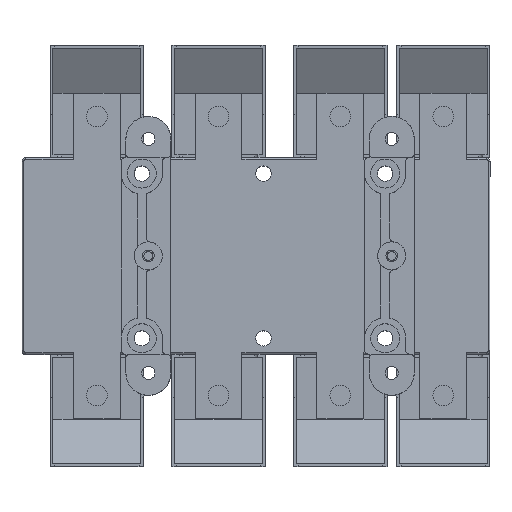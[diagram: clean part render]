
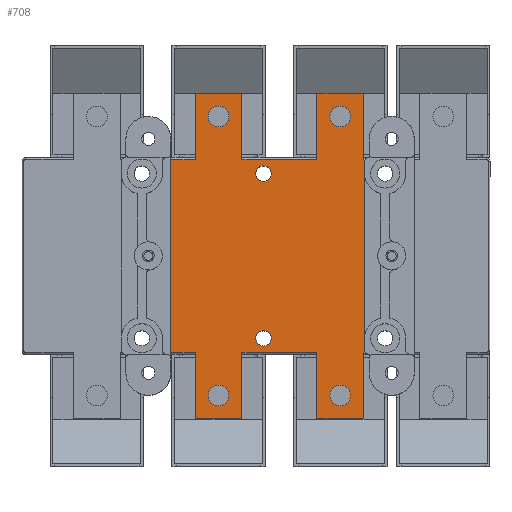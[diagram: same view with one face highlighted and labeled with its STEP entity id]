
A CAD part, top view. The second image highlights one B-rep face of the part: STEP entity #708.
In plain terms, the highlighted planar face has unit normal (0, 0, 1).
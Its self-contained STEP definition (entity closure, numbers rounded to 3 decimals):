
#172=FACE_BOUND('',#1899,.T.);
#173=FACE_BOUND('',#1900,.T.);
#174=FACE_BOUND('',#1901,.T.);
#175=FACE_BOUND('',#1902,.T.);
#176=FACE_BOUND('',#1903,.T.);
#177=FACE_BOUND('',#1904,.T.);
#178=FACE_BOUND('',#1905,.T.);
#708=ADVANCED_FACE('',(#172,#173,#174,#175,#176,#177,#178),#1034,.F.);
#1034=PLANE('',#9313);
#1899=EDGE_LOOP('',(#6134));
#1900=EDGE_LOOP('',(#6135));
#1901=EDGE_LOOP('',(#6136,#6137,#6138,#6139,#6140,#6141,#6142,#6143,#6144,
#6145,#6146,#6147,#6148,#6149,#6150,#6151,#6152,#6153,#6154,#6155,#6156,
#6157));
#1902=EDGE_LOOP('',(#6158));
#1903=EDGE_LOOP('',(#6159));
#1904=EDGE_LOOP('',(#6160));
#1905=EDGE_LOOP('',(#6161));
#2641=LINE('',#13348,#3613);
#2696=LINE('',#13538,#3668);
#2700=LINE('',#13548,#3672);
#2703=LINE('',#13556,#3675);
#2711=LINE('',#13575,#3683);
#2713=LINE('',#13581,#3685);
#2715=LINE('',#13585,#3687);
#2740=LINE('',#13646,#3712);
#2744=LINE('',#13654,#3716);
#2746=LINE('',#13663,#3718);
#2754=LINE('',#13681,#3726);
#2758=LINE('',#13689,#3730);
#2759=LINE('',#13693,#3731);
#2839=LINE('',#14106,#3811);
#2862=LINE('',#14159,#3834);
#2867=LINE('',#14165,#3839);
#2871=LINE('',#14170,#3843);
#2872=LINE('',#14172,#3844);
#2886=LINE('',#14191,#3858);
#2887=LINE('',#14193,#3859);
#3613=VECTOR('',#10793,1.);
#3668=VECTOR('',#10990,1.);
#3672=VECTOR('',#10998,1.);
#3675=VECTOR('',#11005,1.);
#3683=VECTOR('',#11021,1.);
#3685=VECTOR('',#11027,1.);
#3687=VECTOR('',#11031,1.);
#3712=VECTOR('',#11082,1.);
#3716=VECTOR('',#11088,1.);
#3718=VECTOR('',#11096,1.);
#3726=VECTOR('',#11112,1.);
#3730=VECTOR('',#11118,1.);
#3731=VECTOR('',#11123,1.);
#3811=VECTOR('',#11487,1.);
#3834=VECTOR('',#11550,1.);
#3839=VECTOR('',#11557,1.);
#3843=VECTOR('',#11563,1.);
#3844=VECTOR('',#11566,1.);
#3858=VECTOR('',#11590,1.);
#3859=VECTOR('',#11593,1.);
#6134=ORIENTED_EDGE('',*,*,#8380,.F.);
#6135=ORIENTED_EDGE('',*,*,#8381,.F.);
#6136=ORIENTED_EDGE('',*,*,#7984,.F.);
#6137=ORIENTED_EDGE('',*,*,#8367,.T.);
#6138=ORIENTED_EDGE('',*,*,#8080,.F.);
#6139=ORIENTED_EDGE('',*,*,#8071,.F.);
#6140=ORIENTED_EDGE('',*,*,#8076,.F.);
#6141=ORIENTED_EDGE('',*,*,#8351,.T.);
#6142=ORIENTED_EDGE('',*,*,#8127,.T.);
#6143=ORIENTED_EDGE('',*,*,#8123,.T.);
#6144=ORIENTED_EDGE('',*,*,#8131,.T.);
#6145=ORIENTED_EDGE('',*,*,#8352,.T.);
#6146=ORIENTED_EDGE('',*,*,#8261,.T.);
#6147=ORIENTED_EDGE('',*,*,#8312,.T.);
#6148=ORIENTED_EDGE('',*,*,#8257,.T.);
#6149=ORIENTED_EDGE('',*,*,#8347,.T.);
#6150=ORIENTED_EDGE('',*,*,#8144,.T.);
#6151=ORIENTED_EDGE('',*,*,#8146,.T.);
#6152=ORIENTED_EDGE('',*,*,#8140,.T.);
#6153=ORIENTED_EDGE('',*,*,#8342,.T.);
#6154=ORIENTED_EDGE('',*,*,#8089,.F.);
#6155=ORIENTED_EDGE('',*,*,#8094,.F.);
#6156=ORIENTED_EDGE('',*,*,#8092,.F.);
#6157=ORIENTED_EDGE('',*,*,#8366,.T.);
#6158=ORIENTED_EDGE('',*,*,#8041,.T.);
#6159=ORIENTED_EDGE('',*,*,#8039,.T.);
#6160=ORIENTED_EDGE('',*,*,#8033,.T.);
#6161=ORIENTED_EDGE('',*,*,#8031,.T.);
#6905=VERTEX_POINT('',#13336);
#6908=VERTEX_POINT('',#13349);
#6937=VERTEX_POINT('',#13450);
#6939=VERTEX_POINT('',#13455);
#6945=VERTEX_POINT('',#13470);
#6947=VERTEX_POINT('',#13475);
#6971=VERTEX_POINT('',#13537);
#6972=VERTEX_POINT('',#13539);
#6975=VERTEX_POINT('',#13547);
#6976=VERTEX_POINT('',#13551);
#6983=VERTEX_POINT('',#13570);
#6985=VERTEX_POINT('',#13574);
#6987=VERTEX_POINT('',#13580);
#6988=VERTEX_POINT('',#13582);
#7011=VERTEX_POINT('',#13645);
#7012=VERTEX_POINT('',#13647);
#7015=VERTEX_POINT('',#13655);
#7018=VERTEX_POINT('',#13662);
#7024=VERTEX_POINT('',#13680);
#7025=VERTEX_POINT('',#13682);
#7027=VERTEX_POINT('',#13688);
#7028=VERTEX_POINT('',#13690);
#7107=VERTEX_POINT('',#13984);
#7108=VERTEX_POINT('',#13986);
#7111=VERTEX_POINT('',#13993);
#7112=VERTEX_POINT('',#13995);
#7160=VERTEX_POINT('',#14220);
#7161=VERTEX_POINT('',#14222);
#7984=EDGE_CURVE('',#6905,#6908,#2641,.T.);
#8031=EDGE_CURVE('',#6937,#6937,#8519,.T.);
#8033=EDGE_CURVE('',#6939,#6939,#8521,.T.);
#8039=EDGE_CURVE('',#6945,#6945,#8527,.T.);
#8041=EDGE_CURVE('',#6947,#6947,#8529,.T.);
#8071=EDGE_CURVE('',#6971,#6972,#2696,.T.);
#8076=EDGE_CURVE('',#6975,#6971,#2700,.T.);
#8080=EDGE_CURVE('',#6972,#6976,#2703,.T.);
#8089=EDGE_CURVE('',#6985,#6983,#2711,.T.);
#8092=EDGE_CURVE('',#6987,#6988,#2713,.T.);
#8094=EDGE_CURVE('',#6988,#6985,#2715,.T.);
#8123=EDGE_CURVE('',#7012,#7011,#2740,.T.);
#8127=EDGE_CURVE('',#7015,#7012,#2744,.T.);
#8131=EDGE_CURVE('',#7011,#7018,#2746,.T.);
#8140=EDGE_CURVE('',#7025,#7024,#2754,.T.);
#8144=EDGE_CURVE('',#7028,#7027,#2758,.T.);
#8146=EDGE_CURVE('',#7027,#7025,#2759,.T.);
#8257=EDGE_CURVE('',#7108,#7107,#8609,.T.);
#8261=EDGE_CURVE('',#7112,#7111,#8611,.T.);
#8312=EDGE_CURVE('',#7111,#7108,#2839,.T.);
#8342=EDGE_CURVE('',#7024,#6983,#2862,.T.);
#8347=EDGE_CURVE('',#7107,#7028,#2867,.T.);
#8351=EDGE_CURVE('',#6975,#7015,#2871,.T.);
#8352=EDGE_CURVE('',#7018,#7112,#2872,.T.);
#8366=EDGE_CURVE('',#6987,#6908,#2886,.T.);
#8367=EDGE_CURVE('',#6905,#6976,#2887,.T.);
#8380=EDGE_CURVE('',#7160,#7160,#8640,.T.);
#8381=EDGE_CURVE('',#7161,#7161,#8641,.T.);
#8519=CIRCLE('',#9062,5.5);
#8521=CIRCLE('',#9065,5.5);
#8527=CIRCLE('',#9074,5.5);
#8529=CIRCLE('',#9077,5.5);
#8609=CIRCLE('',#9232,2.);
#8611=CIRCLE('',#9235,2.);
#8640=CIRCLE('',#9311,4.1);
#8641=CIRCLE('',#9312,4.1);
#9062=AXIS2_PLACEMENT_3D('',#13449,#10906,#10907);
#9065=AXIS2_PLACEMENT_3D('',#13454,#10912,#10913);
#9074=AXIS2_PLACEMENT_3D('',#13469,#10930,#10931);
#9077=AXIS2_PLACEMENT_3D('',#13474,#10936,#10937);
#9232=AXIS2_PLACEMENT_3D('',#13985,#11381,#11382);
#9235=AXIS2_PLACEMENT_3D('',#13994,#11389,#11390);
#9311=AXIS2_PLACEMENT_3D('',#14219,#11630,#11631);
#9312=AXIS2_PLACEMENT_3D('',#14221,#11632,#11633);
#9313=AXIS2_PLACEMENT_3D('',#14223,#11634,#11635);
#10793=DIRECTION('',(0.,1.,0.));
#10906=DIRECTION('',(0.,0.,-1.));
#10907=DIRECTION('',(-1.,0.,0.));
#10912=DIRECTION('',(0.,0.,-1.));
#10913=DIRECTION('',(-1.,0.,0.));
#10930=DIRECTION('',(0.,0.,-1.));
#10931=DIRECTION('',(-1.,0.,0.));
#10936=DIRECTION('',(0.,0.,-1.));
#10937=DIRECTION('',(-1.,0.,0.));
#10990=DIRECTION('',(-1.,0.,0.));
#10998=DIRECTION('',(0.,-1.,0.));
#11005=DIRECTION('',(0.,1.,0.));
#11021=DIRECTION('',(0.,-1.,0.));
#11027=DIRECTION('',(0.,1.,0.));
#11031=DIRECTION('',(1.,0.,0.));
#11082=DIRECTION('',(1.,0.,0.));
#11088=DIRECTION('',(0.,-1.,0.));
#11096=DIRECTION('',(0.,1.,0.));
#11112=DIRECTION('',(0.,-1.,0.));
#11118=DIRECTION('',(0.,1.,0.));
#11123=DIRECTION('',(-1.,0.,0.));
#11381=DIRECTION('',(0.,0.,-1.));
#11382=DIRECTION('',(-1.,0.,0.));
#11389=DIRECTION('',(0.,0.,-1.));
#11390=DIRECTION('',(-1.,0.,0.));
#11487=DIRECTION('',(0.,1.,0.));
#11550=DIRECTION('',(-1.,0.,0.));
#11557=DIRECTION('',(-1.,0.,0.));
#11563=DIRECTION('',(1.,0.,0.));
#11566=DIRECTION('',(1.,0.,0.));
#11590=DIRECTION('',(-1.,0.,0.));
#11593=DIRECTION('',(1.,0.,0.));
#11630=DIRECTION('',(0.,0.,1.));
#11631=DIRECTION('',(-1.,0.,0.));
#11632=DIRECTION('',(0.,0.,1.));
#11633=DIRECTION('',(-1.,0.,0.));
#11634=DIRECTION('',(0.,0.,-1.));
#11635=DIRECTION('',(-1.,0.,0.));
#13336=CARTESIAN_POINT('',(-118.,-51.5,0.));
#13348=CARTESIAN_POINT('',(-118.,62.5,0.));
#13349=CARTESIAN_POINT('',(-118.,51.5,0.));
#13449=CARTESIAN_POINT('',(-27.5,74.5,0.));
#13450=CARTESIAN_POINT('',(-33.,74.5,0.));
#13454=CARTESIAN_POINT('',(-92.5,74.5,0.));
#13455=CARTESIAN_POINT('',(-98.,74.5,0.));
#13469=CARTESIAN_POINT('',(-92.5,-74.5,0.));
#13470=CARTESIAN_POINT('',(-98.,-74.5,0.));
#13474=CARTESIAN_POINT('',(-27.5,-74.5,0.));
#13475=CARTESIAN_POINT('',(-33.,-74.5,0.));
#13537=CARTESIAN_POINT('',(-80.,-87.,0.));
#13538=CARTESIAN_POINT('',(-80.,-87.,0.));
#13539=CARTESIAN_POINT('',(-105.,-87.,0.));
#13547=CARTESIAN_POINT('',(-80.,-51.5,0.));
#13548=CARTESIAN_POINT('',(-80.,87.,0.));
#13551=CARTESIAN_POINT('',(-105.,-51.5,0.));
#13556=CARTESIAN_POINT('',(-105.,-87.,0.));
#13570=CARTESIAN_POINT('',(-80.,51.5,0.));
#13574=CARTESIAN_POINT('',(-80.,87.,0.));
#13575=CARTESIAN_POINT('',(-80.,87.,0.));
#13580=CARTESIAN_POINT('',(-105.,51.5,0.));
#13581=CARTESIAN_POINT('',(-105.,-87.,0.));
#13582=CARTESIAN_POINT('',(-105.,87.,0.));
#13585=CARTESIAN_POINT('',(-105.,87.,0.));
#13645=CARTESIAN_POINT('',(-15.,-87.,0.));
#13646=CARTESIAN_POINT('',(-40.,-87.,0.));
#13647=CARTESIAN_POINT('',(-40.,-87.,0.));
#13654=CARTESIAN_POINT('',(-40.,87.,0.));
#13655=CARTESIAN_POINT('',(-40.,-51.5,0.));
#13662=CARTESIAN_POINT('',(-15.,-51.5,0.));
#13663=CARTESIAN_POINT('',(-15.,-87.,0.));
#13680=CARTESIAN_POINT('',(-40.,51.5,0.));
#13681=CARTESIAN_POINT('',(-40.,87.,0.));
#13682=CARTESIAN_POINT('',(-40.,87.,0.));
#13688=CARTESIAN_POINT('',(-15.,87.,0.));
#13689=CARTESIAN_POINT('',(-15.,-87.,0.));
#13690=CARTESIAN_POINT('',(-15.,51.5,0.));
#13693=CARTESIAN_POINT('',(-15.,87.,0.));
#13984=CARTESIAN_POINT('',(-14.232,51.5,0.));
#13985=CARTESIAN_POINT('',(-12.5,50.5,0.));
#13986=CARTESIAN_POINT('',(-14.5,50.5,0.));
#13993=CARTESIAN_POINT('',(-14.5,-50.5,0.));
#13994=CARTESIAN_POINT('',(-12.5,-50.5,0.));
#13995=CARTESIAN_POINT('',(-14.232,-51.5,0.));
#14106=CARTESIAN_POINT('',(-14.5,62.5,0.));
#14159=CARTESIAN_POINT('',(-195.5,51.5,0.));
#14165=CARTESIAN_POINT('',(-195.5,51.5,0.));
#14170=CARTESIAN_POINT('',(-12.5,-51.5,0.));
#14172=CARTESIAN_POINT('',(-12.5,-51.5,0.));
#14191=CARTESIAN_POINT('',(-195.5,51.5,0.));
#14193=CARTESIAN_POINT('',(-12.5,-51.5,0.));
#14219=CARTESIAN_POINT('',(-68.5,44.,0.));
#14220=CARTESIAN_POINT('',(-72.6,44.,0.));
#14221=CARTESIAN_POINT('',(-68.5,-44.,0.));
#14222=CARTESIAN_POINT('',(-72.6,-44.,0.));
#14223=CARTESIAN_POINT('',(50.5,-50.5,0.));
